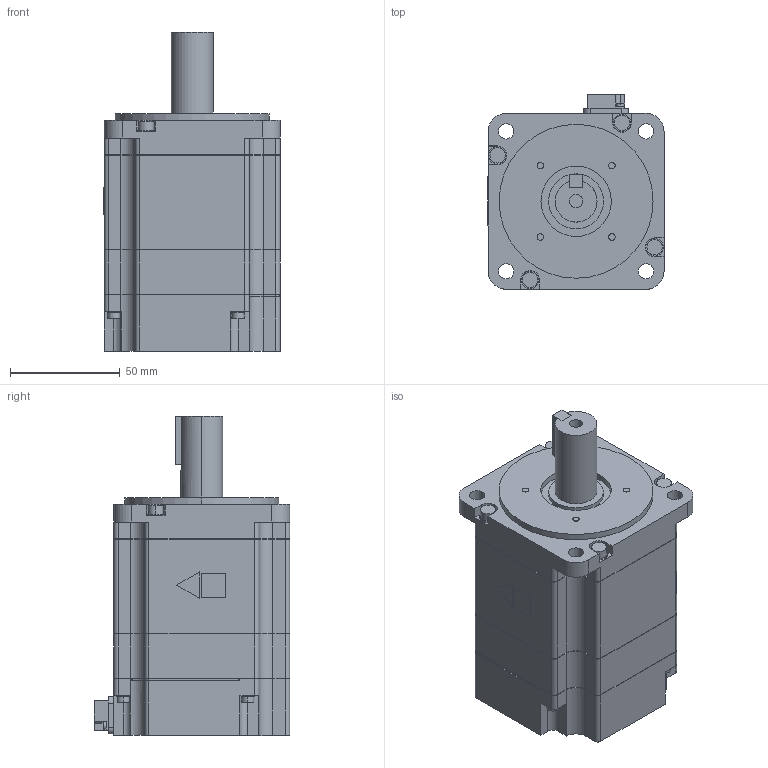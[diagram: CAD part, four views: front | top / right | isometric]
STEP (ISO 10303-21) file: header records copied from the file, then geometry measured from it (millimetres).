
FILE_DESCRIPTION (( 'STEP AP203' ), '1' );
FILE_NAME ('sgm7a_08a6a61.STEP', '2016-11-12T04:45:05', ( '匠エンジニアリング山之内' ), ( 'TAKUMI-Engniaring' ), 'SwSTEP 2.0', 'SolidWorks 2006303', '' );
FILE_SCHEMA (( 'CONFIG_CONTROL_DESIGN' ));
Length unit declared in the file: millimetre
Products named in the file (3): sgm7a_08a6a61_base; sgm7a_08a6a61_key; sgm7a_08a6a61
Assembly tree (2 placements, depth 2):
  sgm7a_08a6a61
    sgm7a_08a6a61_base
    sgm7a_08a6a61_key
Bounding box: 80.1 x 88.8 x 145.1 mm (x, y, z)
Volume: 612694.3 mm3; surface area: 53462.7 mm2
Topology: 2 solids, 2 shells, 433 faces, 1128 edges, 748 vertices
Faces by surface type: plane 244, cylinder 189
Entity records: 13696 total; most frequent: DIRECTION 2385, CARTESIAN_POINT 2344, ORIENTED_EDGE 2256, EDGE_CURVE 1128, AXIS2_PLACEMENT_3D 821, VERTEX_POINT 748, VECTOR 743, LINE 743
